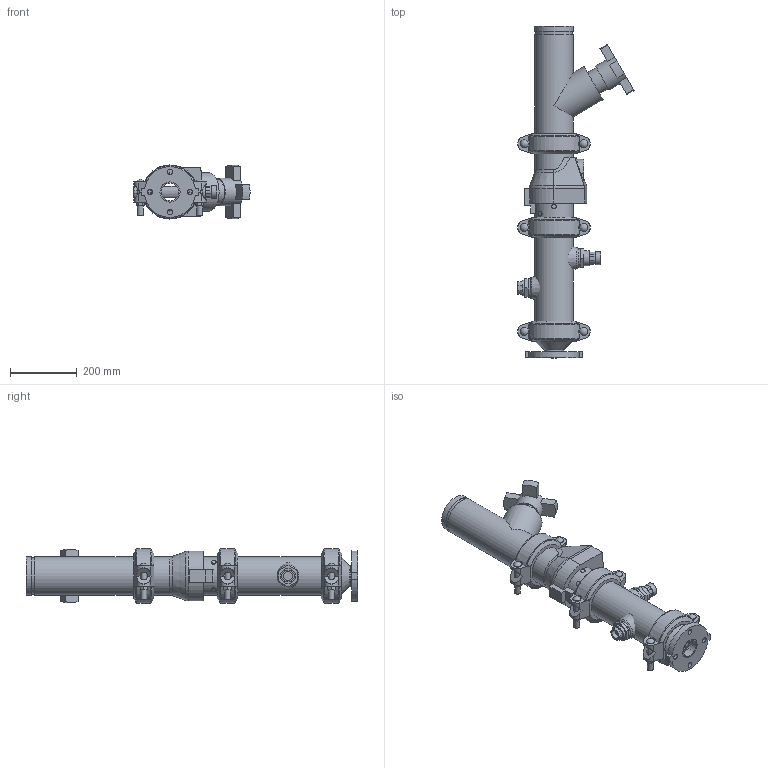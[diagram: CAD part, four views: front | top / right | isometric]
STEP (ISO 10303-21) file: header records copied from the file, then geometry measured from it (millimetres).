
FILE_DESCRIPTION(/* description */ ('VIC DVI PUMP DROP VERT S/383 (OGSxFLG) (S/924-0.75)','CAx-IF Rec.Pracs.---Representation and Presentation of Product Manufacturing Information (PMI)---4.0---2014-10-13'),/* implementation_level */ '2;1');
FILE_NAME(/* name */ 'C:\Users\Public\Documents\Victaulic.Temp\A849\Victaulic_IPS_Vertical DVI_CL 150_Series 383 (OGSxFLG)_924 (0.75)_04.0x02.0 (100x50).stp',/* time_stamp */ '2022-07-25T11:38:36+02:00',/* author */ ('Vjadhav'),/* organization */ ('Victaulic'),/* preprocessor_version */ 'ST-DEVELOPER v18',/* originating_system */ 'Autodesk Inventor 2020',/* authorisation */ '');
FILE_SCHEMA (('AP242_MANAGED_MODEL_BASED_3D_ENGINEERING_MIM_LF { 1 0 10303 442 1 1 4 }'));
Length unit declared in the file: inch
Products named in the file (9): 383_924 (0.75)-04.0x02.0; 741-02.0; 050-04.0x02.0; Pipe-04.0; 177N-04.0; 789-04.0; 779-04.0; 924-04.0x0.75; 923-04.0x0.75
Assembly tree (10 placements, depth 2):
  383_924 (0.75)-04.0x02.0
    741-02.0
    050-04.0x02.0
    177N-04.0  x3
    Pipe-04.0
    789-04.0
    779-04.0
    924-04.0x0.75
    923-04.0x0.75
Bounding box: 347.73 x 993.9 x 162.05 mm (x, y, z)
Volume: 7349846.6 mm3; surface area: 1218124.8 mm2
Topology: 10 solids, 10 shells, 533 faces, 1430 edges, 954 vertices
Faces by surface type: plane 311, cylinder 177, cone 19, torus 18, sphere 6, bspline 2
Full cylindrical faces by diameter (mm): 13.716 x2, 15.875 x4, 17.424 x6, 23.495 x6, 26.67 x2, 38.608 x1, 45.974 x4, 52.502 x1, 55.626 x2, 57.15 x1, 60.325 x3, 72.39 x1, 82.55 x1, 101.6 x3, 102.26 x4, 110.084 x7, 114.3 x19
Entity records: 12053 total; most frequent: CARTESIAN_POINT 2438, DIRECTION 1979, ORIENTED_EDGE 1808, EDGE_CURVE 904, AXIS2_PLACEMENT_3D 753, VERTEX_POINT 610, LINE 473, VECTOR 473
